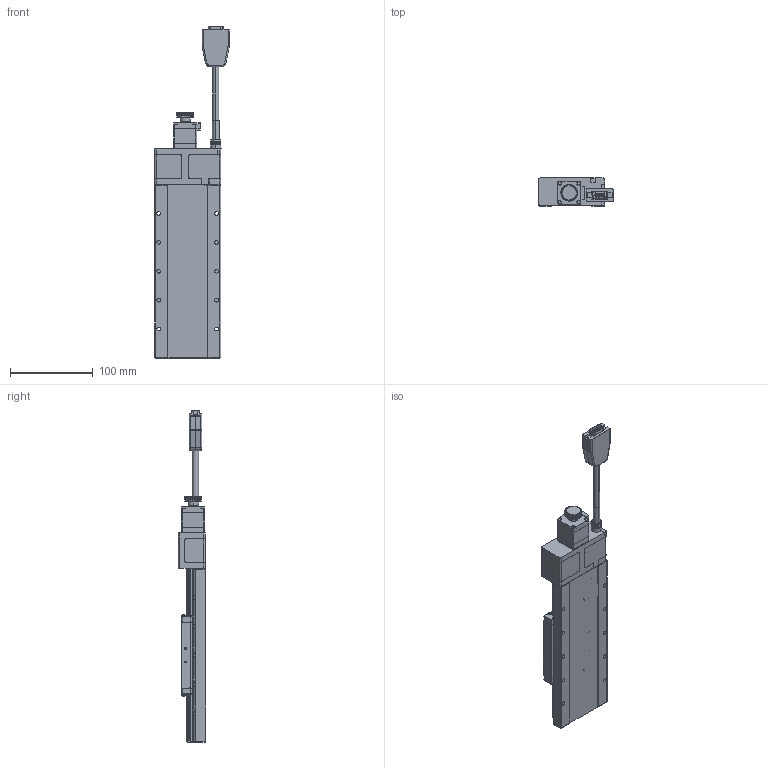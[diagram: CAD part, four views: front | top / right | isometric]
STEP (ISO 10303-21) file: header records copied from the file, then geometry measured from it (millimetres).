
FILE_DESCRIPTION (( 'STEP AP203' ), '1' );
FILE_NAME ('CXN80100-S2?N.STEP', '2023-09-28T05:44:45', ( '' ), ( '' ), 'SwSTEP 2.0', 'SolidWorks 2019', '' );
FILE_SCHEMA (( 'CONFIG_CONTROL_DESIGN' ));
Length unit declared in the file: millimetre
Products named in the file (4): CXN80100-S2?N; Group1^CXN80100-S2?N(2023新版)_defeature_GMT; Group2^CXN80100-S2?N(2023新版)_defeature_GMT; CXN80-107-00
Assembly tree (3 placements, depth 2):
  CXN80100-S2?N
    Group1^CXN80100-S2?N(2023新版)_defeature_GMT
    Group2^CXN80100-S2?N(2023新版)_defeature_GMT
    CXN80-107-00
Bounding box: 90.5 x 33.5 x 401.8 mm (x, y, z)
Volume: 58894.6 mm3; surface area: 143215 mm2
Topology: 21 solids, 24 shells, 4551 faces, 11644 edges, 7071 vertices
Faces by surface type: plane 1578, cylinder 1436, cone 527, torus 521, bspline 274, sphere 215
Entity records: 150046 total; most frequent: CARTESIAN_POINT 40901, DIRECTION 23255, ORIENTED_EDGE 22852, EDGE_CURVE 11426, AXIS2_PLACEMENT_3D 8980, VERTEX_POINT 7063, LINE 5295, VECTOR 5295
